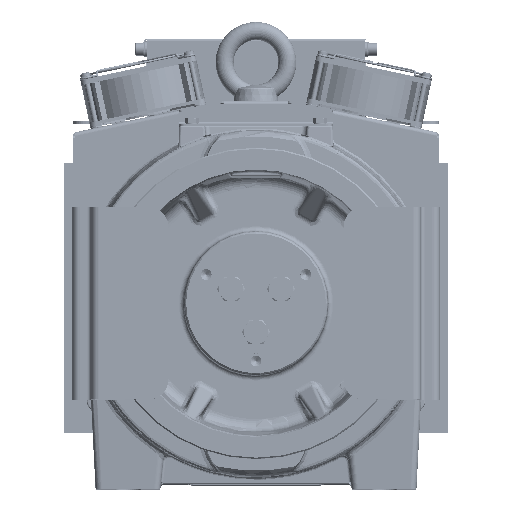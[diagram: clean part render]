
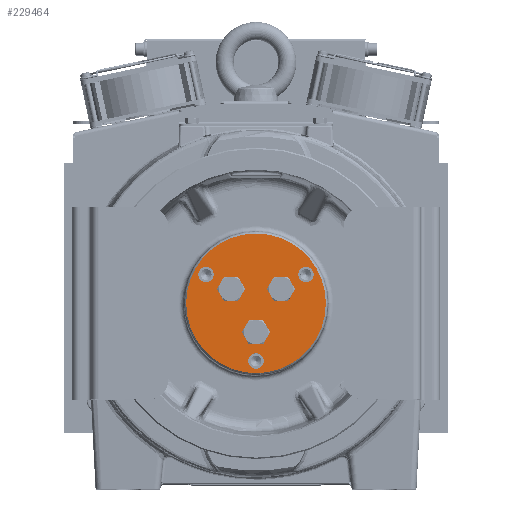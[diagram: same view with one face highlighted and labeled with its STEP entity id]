
A CAD part, top view. The second image highlights one B-rep face of the part: STEP entity #229464.
In plain terms, the highlighted planar face has unit normal (0, 0, 1) as drawn and (0, -1, 0) by its records, which use the part's own axes.
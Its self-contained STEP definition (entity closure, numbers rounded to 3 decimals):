
#229121=CARTESIAN_POINT('',(0.,0.,
0.));
#229122=DIRECTION('',(0.,-1.,0.));
#229123=DIRECTION('',(-1.,0.,0.));
#229124=AXIS2_PLACEMENT_3D('',#229121,#229122,#229123);
#229126=CARTESIAN_POINT('',(0.,0.,
0.));
#229127=DIRECTION('',(0.,-1.,0.));
#229128=DIRECTION('',(1.,0.,0.));
#229129=AXIS2_PLACEMENT_3D('',#229126,#229127,#229128);
#229131=CARTESIAN_POINT('',(0.,0.,-22.5));
#229132=DIRECTION('',(0.,-1.,0.));
#229133=DIRECTION('',(1.,0.,0.));
#229134=AXIS2_PLACEMENT_3D('',#229131,#229132,#229133);
#229136=CARTESIAN_POINT('',(0.,0.,-22.5));
#229137=DIRECTION('',(0.,-1.,0.));
#229138=DIRECTION('',(-1.,0.,0.));
#229139=AXIS2_PLACEMENT_3D('',#229136,#229137,#229138);
#229141=CARTESIAN_POINT('',(19.486,0.,11.25));
#229142=DIRECTION('',(0.,-1.,0.));
#229143=DIRECTION('',(-0.5,0.,0.866));
#229144=AXIS2_PLACEMENT_3D('',#229141,#229142,#229143);
#229146=CARTESIAN_POINT('',(19.486,0.,11.25));
#229147=DIRECTION('',(0.,-1.,0.));
#229148=DIRECTION('',(0.5,0.,-0.866));
#229149=AXIS2_PLACEMENT_3D('',#229146,#229147,#229148);
#229151=CARTESIAN_POINT('',(-19.486,0.,11.25));
#229152=DIRECTION('',(0.,-1.,0.));
#229153=DIRECTION('',(-0.5,0.,-0.866));
#229154=AXIS2_PLACEMENT_3D('',#229151,#229152,#229153);
#229156=CARTESIAN_POINT('',(-19.486,0.,11.25));
#229157=DIRECTION('',(0.,-1.,0.));
#229158=DIRECTION('',(0.5,0.,0.866));
#229159=AXIS2_PLACEMENT_3D('',#229156,#229157,#229158);
#229161=CARTESIAN_POINT('',(0.,0.,-45.));
#229162=DIRECTION('',(0.,-1.,0.));
#229163=DIRECTION('',(1.,0.,0.));
#229164=AXIS2_PLACEMENT_3D('',#229161,#229162,#229163);
#229166=CARTESIAN_POINT('',(0.,0.,-45.));
#229167=DIRECTION('',(0.,-1.,0.));
#229168=DIRECTION('',(-1.,0.,0.));
#229169=AXIS2_PLACEMENT_3D('',#229166,#229167,#229168);
#229171=CARTESIAN_POINT('',(38.971,0.,22.5));
#229172=DIRECTION('',(0.,-1.,0.));
#229173=DIRECTION('',(-0.5,0.,0.866));
#229174=AXIS2_PLACEMENT_3D('',#229171,#229172,#229173);
#229176=CARTESIAN_POINT('',(38.971,0.,22.5));
#229177=DIRECTION('',(0.,-1.,0.));
#229178=DIRECTION('',(0.5,0.,-0.866));
#229179=AXIS2_PLACEMENT_3D('',#229176,#229177,#229178);
#229181=CARTESIAN_POINT('',(-38.971,0.,22.5));
#229182=DIRECTION('',(0.,-1.,0.));
#229183=DIRECTION('',(-0.5,0.,-0.866));
#229184=AXIS2_PLACEMENT_3D('',#229181,#229182,#229183);
#229186=CARTESIAN_POINT('',(-38.971,0.,22.5));
#229187=DIRECTION('',(0.,-1.,0.));
#229188=DIRECTION('',(0.5,0.,0.866));
#229189=AXIS2_PLACEMENT_3D('',#229186,#229187,#229188);
#229365=CARTESIAN_POINT('',(6.5,0.,-22.5));
#229366=CARTESIAN_POINT('',(-6.5,0.,-22.5));
#229367=VERTEX_POINT('',#229365);
#229368=VERTEX_POINT('',#229366);
#229373=CARTESIAN_POINT('',(16.236,0.,16.879));
#229374=CARTESIAN_POINT('',(22.736,0.,5.621));
#229375=VERTEX_POINT('',#229373);
#229376=VERTEX_POINT('',#229374);
#229381=CARTESIAN_POINT('',(-22.736,0.,5.621));
#229382=CARTESIAN_POINT('',(-16.236,0.,16.879));
#229383=VERTEX_POINT('',#229381);
#229384=VERTEX_POINT('',#229382);
#229389=CARTESIAN_POINT('',(6.,0.,-45.));
#229390=CARTESIAN_POINT('',(-6.,0.,-45.));
#229391=VERTEX_POINT('',#229389);
#229392=VERTEX_POINT('',#229390);
#229397=CARTESIAN_POINT('',(35.971,0.,27.696));
#229398=CARTESIAN_POINT('',(41.971,0.,17.304));
#229399=VERTEX_POINT('',#229397);
#229400=VERTEX_POINT('',#229398);
#229405=CARTESIAN_POINT('',(-41.971,0.,17.304));
#229406=CARTESIAN_POINT('',(-35.971,0.,27.696));
#229407=VERTEX_POINT('',#229405);
#229408=VERTEX_POINT('',#229406);
#229413=CARTESIAN_POINT('',(-54.5,0.,0.));
#229414=CARTESIAN_POINT('',(54.5,0.,0.));
#229415=VERTEX_POINT('',#229413);
#229416=VERTEX_POINT('',#229414);
#229417=CARTESIAN_POINT('',(0.,0.,0.));
#229418=DIRECTION('',(0.,-1.,0.));
#229419=DIRECTION('',(-1.,0.,0.));
#229420=AXIS2_PLACEMENT_3D('',#229417,#229418,#229419);
#229421=PLANE('',#229420);
#229423=ORIENTED_EDGE('',*,*,#229422,.F.);
#229425=ORIENTED_EDGE('',*,*,#229424,.F.);
#229426=EDGE_LOOP('',(#229423,#229425));
#229427=FACE_OUTER_BOUND('',#229426,.F.);
#229429=ORIENTED_EDGE('',*,*,#229428,.T.);
#229431=ORIENTED_EDGE('',*,*,#229430,.T.);
#229432=EDGE_LOOP('',(#229429,#229431));
#229433=FACE_BOUND('',#229432,.F.);
#229435=ORIENTED_EDGE('',*,*,#229434,.T.);
#229437=ORIENTED_EDGE('',*,*,#229436,.T.);
#229438=EDGE_LOOP('',(#229435,#229437));
#229439=FACE_BOUND('',#229438,.F.);
#229441=ORIENTED_EDGE('',*,*,#229440,.T.);
#229443=ORIENTED_EDGE('',*,*,#229442,.T.);
#229444=EDGE_LOOP('',(#229441,#229443));
#229445=FACE_BOUND('',#229444,.F.);
#229447=ORIENTED_EDGE('',*,*,#229446,.T.);
#229449=ORIENTED_EDGE('',*,*,#229448,.T.);
#229450=EDGE_LOOP('',(#229447,#229449));
#229451=FACE_BOUND('',#229450,.F.);
#229453=ORIENTED_EDGE('',*,*,#229452,.T.);
#229455=ORIENTED_EDGE('',*,*,#229454,.T.);
#229456=EDGE_LOOP('',(#229453,#229455));
#229457=FACE_BOUND('',#229456,.F.);
#229459=ORIENTED_EDGE('',*,*,#229458,.T.);
#229461=ORIENTED_EDGE('',*,*,#229460,.T.);
#229462=EDGE_LOOP('',(#229459,#229461));
#229463=FACE_BOUND('',#229462,.F.);
#229464=ADVANCED_FACE('',(#229427,#229433,#229439,#229445,#229451,#229457,
#229463),#229421,.T.);
#229125=CIRCLE('',#229124,54.5);
#229130=CIRCLE('',#229129,54.5);
#229135=CIRCLE('',#229134,6.5);
#229140=CIRCLE('',#229139,6.5);
#229145=CIRCLE('',#229144,6.5);
#229150=CIRCLE('',#229149,6.5);
#229155=CIRCLE('',#229154,6.5);
#229160=CIRCLE('',#229159,6.5);
#229165=CIRCLE('',#229164,6.);
#229170=CIRCLE('',#229169,6.);
#229175=CIRCLE('',#229174,6.);
#229180=CIRCLE('',#229179,6.);
#229185=CIRCLE('',#229184,6.);
#229190=CIRCLE('',#229189,6.);
#229422=EDGE_CURVE('',#229415,#229416,#229125,.T.);
#229424=EDGE_CURVE('',#229416,#229415,#229130,.T.);
#229428=EDGE_CURVE('',#229367,#229368,#229135,.T.);
#229430=EDGE_CURVE('',#229368,#229367,#229140,.T.);
#229434=EDGE_CURVE('',#229375,#229376,#229145,.T.);
#229436=EDGE_CURVE('',#229376,#229375,#229150,.T.);
#229440=EDGE_CURVE('',#229383,#229384,#229155,.T.);
#229442=EDGE_CURVE('',#229384,#229383,#229160,.T.);
#229446=EDGE_CURVE('',#229391,#229392,#229165,.T.);
#229448=EDGE_CURVE('',#229392,#229391,#229170,.T.);
#229452=EDGE_CURVE('',#229399,#229400,#229175,.T.);
#229454=EDGE_CURVE('',#229400,#229399,#229180,.T.);
#229458=EDGE_CURVE('',#229407,#229408,#229185,.T.);
#229460=EDGE_CURVE('',#229408,#229407,#229190,.T.);
